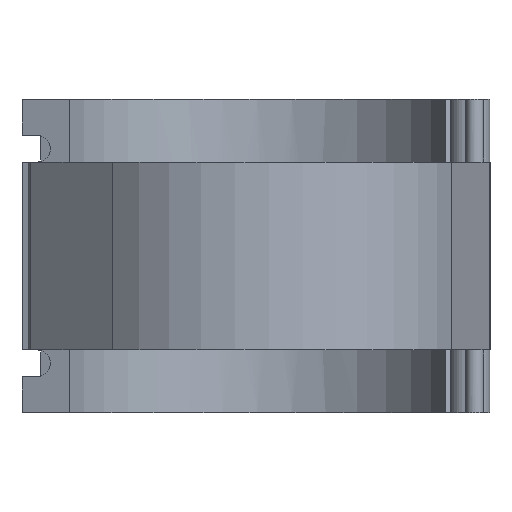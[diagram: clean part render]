
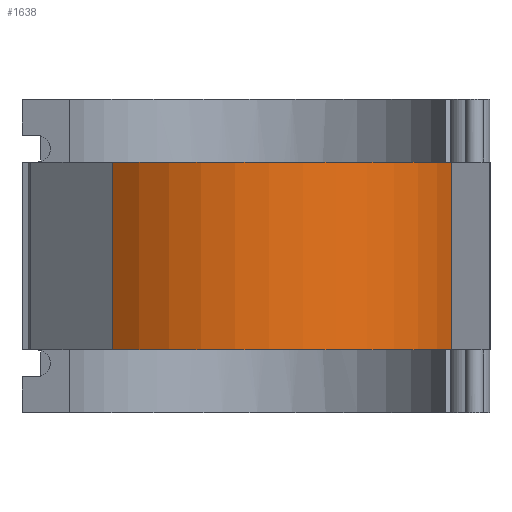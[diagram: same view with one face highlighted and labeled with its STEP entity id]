
A CAD part, front view. The second image highlights one B-rep face of the part: STEP entity #1638.
In plain terms, the highlighted cylindrical face has radius 115.875 mm (diameter 231.75 mm), a partial arc.
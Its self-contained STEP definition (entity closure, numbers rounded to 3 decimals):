
#190=FACE_OUTER_BOUND('',#301,.T.);
#301=EDGE_LOOP('',(#1488,#1489,#1490,#1491));
#397=CIRCLE('',#1831,115.875);
#400=CIRCLE('',#1835,115.875);
#518=LINE('',#3391,#632);
#522=LINE('',#3400,#636);
#632=VECTOR('',#2332,10.);
#636=VECTOR('',#2346,10.);
#785=VERTEX_POINT('',#3354);
#786=VERTEX_POINT('',#3356);
#789=VERTEX_POINT('',#3364);
#790=VERTEX_POINT('',#3366);
#1007=EDGE_CURVE('',#785,#786,#397,.T.);
#1012=EDGE_CURVE('',#789,#790,#400,.T.);
#1026=EDGE_CURVE('',#789,#786,#518,.T.);
#1030=EDGE_CURVE('',#785,#790,#522,.T.);
#1488=ORIENTED_EDGE('',*,*,#1030,.T.);
#1489=ORIENTED_EDGE('',*,*,#1012,.F.);
#1490=ORIENTED_EDGE('',*,*,#1026,.T.);
#1491=ORIENTED_EDGE('',*,*,#1007,.F.);
#1548=CYLINDRICAL_SURFACE('',#1850,115.875);
#1638=ADVANCED_FACE('',(#190),#1548,.T.);
#1831=AXIS2_PLACEMENT_3D('',#3357,#2294,#2295);
#1835=AXIS2_PLACEMENT_3D('',#3367,#2304,#2305);
#1850=AXIS2_PLACEMENT_3D('',#3401,#2347,#2348);
#2294=DIRECTION('center_axis',(0.,0.,-1.));
#2295=DIRECTION('ref_axis',(0.702,0.713,0.));
#2304=DIRECTION('center_axis',(0.,0.,1.));
#2305=DIRECTION('ref_axis',(0.702,0.713,0.));
#2332=DIRECTION('',(0.,0.,-1.));
#2346=DIRECTION('',(0.,0.,1.));
#2347=DIRECTION('center_axis',(0.,0.,1.));
#2348=DIRECTION('ref_axis',(0.702,0.713,0.));
#3354=CARTESIAN_POINT('',(109.225,-38.689,-52.8));
#3356=CARTESIAN_POINT('',(-81.301,-82.566,-52.8));
#3357=CARTESIAN_POINT('Origin',(0.,0.,
-52.8));
#3364=CARTESIAN_POINT('',(-81.301,-82.566,52.8));
#3366=CARTESIAN_POINT('',(109.225,-38.689,52.8));
#3367=CARTESIAN_POINT('Origin',(0.,0.,
52.8));
#3391=CARTESIAN_POINT('',(-81.301,-82.566,0.));
#3400=CARTESIAN_POINT('',(109.225,-38.689,0.));
#3401=CARTESIAN_POINT('Origin',(0.,0.,
0.));
